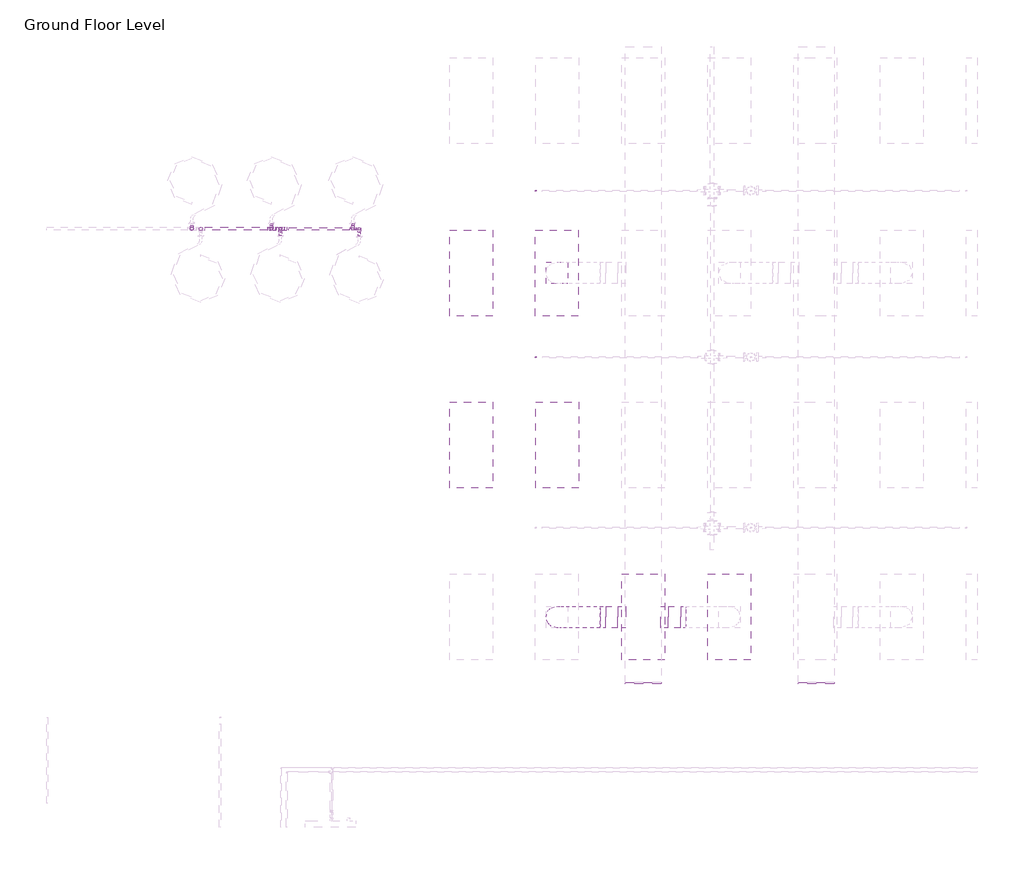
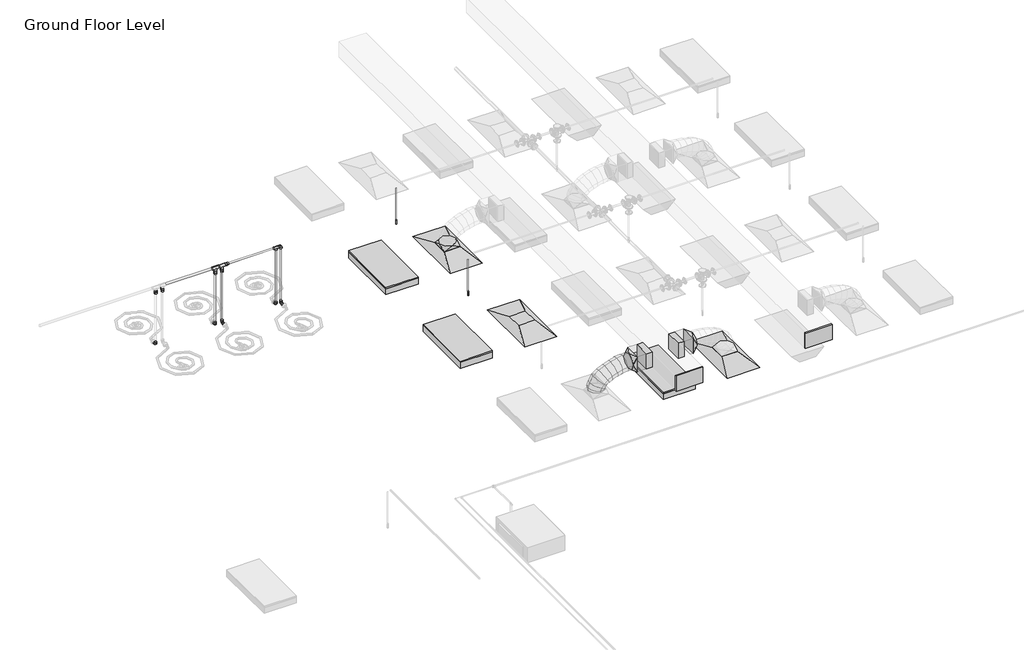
# One storey, part 44 of 74: 14 pipe fittings, 14 pipe segments, 7 duct fittings, 3 air terminals, 3 duct segments, 3 light fixtures, 2 fire suppression terminals.
"""IFC4 building model written with IfcOpenShell, lengths in millimetres."""

from ifc_helpers import new_model, si_unit, point, frame, frame_2d, origin, place, context, project, spatial, polyline, circle_curve, ellipse_curve, trimmed, segment, composite_curve, outline, extrude, transform, mapped, element, save
from ifc_brep_helpers import plane_surface, cylinder_surface, advanced_brep
from components import m_return_diffuser_1200x600_1200_x_600_face_300_x_300_d1983ef6, m_rectangular_endcap_standard_72d4d00d, m_rectangular_takeoff_standard_cb0ccb98, m_rectangular_takeoff_standard_2be5eba1, m_rectangular_to_round_transition_angle_45_degree_641efff0, m_sprinkler_dry_pendent_hosted_15_mm_dry_pendent_9bda8e11, m_troffer_light_parabolic_rectangular1_0600x1200mm_4_lamp_86473d4a, standard_517a5a8d, standard_72b35c3b, standard_08ff6011, standard_d0d0b892

model = new_model("IFC4")

# Units and contexts
model_context = context("Model", 3, world=origin())
ifc_project = project(units=[si_unit("LENGTHUNIT", "METRE", prefix="MILLI")], contexts=[model_context])

# Site, building, storey
site = spatial("IfcSite", under=ifc_project)
building = spatial("IfcBuilding", under=site)
storey = spatial("IfcBuildingStorey", under=building, Name="Ground Floor Level", Elevation=900.0)

# Air terminals
placement = place(None, origin())
m_return_diffuser_1200x600_1200_x_600_face_300_x_300_shape = m_return_diffuser_1200x600_1200_x_600_face_300_x_300_d1983ef6(model_context)
element("IfcAirTerminal", 1, ObjectType="M_Return Diffuser 1200x600 : 1200 x 600 Face 300 x 300 Connection", at=placement, inside=storey, context=model_context, shape_type="MappedRepresentation", body=[
    mapped(m_return_diffuser_1200x600_1200_x_600_face_300_x_300_shape, transform((-8137.2327605, 4035.2153534, 3650.0), x_axis=(0.0, 1.0, 0.0), y_axis=(-1.0, 0.0, 0.0), z_axis=(0.0, 0.0, 1.0))),
])
element("IfcAirTerminal", 2, ObjectType="M_Supply Diffuser 1200x600 : 1200 x 600 Face 300 x 300 Connection", at=placement, inside=storey, context=model_context, shape_type="MappedRepresentation", body=[
    mapped(m_return_diffuser_1200x600_1200_x_600_face_300_x_300_shape, transform((-8142.6846929, 6435.2153534, 3650.0), x_axis=(0.0, 1.0, 0.0), y_axis=(-1.0, 0.0, 0.0), z_axis=(0.0, 0.0, 1.0))),
])
element("IfcAirTerminal", 3, ObjectType="M_Supply Diffuser 1200x600 : 1200 x 600 Face 300 x 300 Connection", at=placement, inside=storey, context=model_context, shape_type="MappedRepresentation", body=[
    mapped(m_return_diffuser_1200x600_1200_x_600_face_300_x_300_shape, transform((-5737.2327605, 1635.2153534, 3650.0), x_axis=(0.0, 1.0, 0.0), y_axis=(-1.0, 0.0, 0.0), z_axis=(0.0, 0.0, 1.0))),
])

# Duct fittings
m_rectangular_endcap_standard_shape = m_rectangular_endcap_standard_72d4d00d(model_context)
element("IfcDuctFitting", 4, ObjectType="M_Rectangular Endcap : Standard", at=placement, inside=storey, context=model_context, shape_type="MappedRepresentation", body=[
    mapped(m_rectangular_endcap_standard_shape, transform((-4528.6910789, 725.2312455, 4150.0403557), x_axis=(0.0, -0.999999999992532, 3.864729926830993e-06), y_axis=(1.0, 0.0, 0.0), z_axis=(0.0, 3.864729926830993e-06, 0.999999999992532))),
])
element("IfcDuctFitting", 5, ObjectType="M_Rectangular Endcap : Standard", at=placement, inside=storey, context=model_context, shape_type="MappedRepresentation", body=[
    mapped(m_rectangular_endcap_standard_shape, transform((-6939.6910789, 725.2153534, 4150.0), x_axis=(0.0, -1.0, 0.0), y_axis=(1.0, 0.0, 0.0), z_axis=(0.0, 0.0, 1.0))),
])
m_rectangular_takeoff_standard_shape = m_rectangular_takeoff_standard_cb0ccb98(model_context)
element("IfcDuctFitting", 6, ObjectType="M_Rectangular Takeoff : Standard", at=placement, inside=storey, context=model_context, shape_type="MappedRepresentation", body=[
    mapped(m_rectangular_takeoff_standard_shape, transform((-6689.6910789, 1635.2153534, 4150.0), x_axis=(1.0, 0.0, 0.0), y_axis=(0.0, -1.0, 0.0), z_axis=(0.0, 0.0, -1.0))),
])
m_rectangular_takeoff_standard_2_shape = m_rectangular_takeoff_standard_2be5eba1(model_context)
element("IfcDuctFitting", 7, ObjectType="M_Rectangular Takeoff : Standard", at=placement, inside=storey, context=model_context, shape_type="MappedRepresentation", body=[
    mapped(m_rectangular_takeoff_standard_2_shape, transform((-7189.6910789, 1635.2153534, 4150.0), x_axis=(-1.0, 0.0, 0.0), y_axis=(0.0, 1.0, 0.0), z_axis=(0.0, 0.0, -1.0))),
])
m_rectangular_to_round_transition_angle_45_degree_shape = m_rectangular_to_round_transition_angle_45_degree_641efff0(model_context)
element("IfcDuctFitting", 8, ObjectType="M_Rectangular to Round Transition - Angle : 45 Degree", at=placement, inside=storey, context=model_context, shape_type="MappedRepresentation", body=[
    mapped(m_rectangular_to_round_transition_angle_45_degree_shape, transform((-8142.6846929, 6435.2153534, 3751.6), x_axis=(0.0, 0.0, 1.0), y_axis=(-1.0, 0.0, 0.0), z_axis=(0.0, -1.0, 0.0))),
])
element("IfcDuctFitting", 9, ObjectType="M_Rectangular to Round Transition - Angle : 45 Degree", at=placement, inside=storey, context=model_context, shape_type="MappedRepresentation", body=[
    mapped(m_rectangular_to_round_transition_angle_45_degree_shape, transform((-7461.2487616, 1635.2153534, 4150.0), x_axis=(-1.0, 0.0, 0.0), y_axis=(0.0, -1.0, 0.0), z_axis=(0.0, 0.0, 1.0))),
])
element("IfcDuctFitting", 10, ObjectType="M_Rectangular to Round Transition - Angle : 45 Degree", at=placement, inside=storey, context=model_context, shape_type="MappedRepresentation", body=[
    mapped(m_rectangular_to_round_transition_angle_45_degree_shape, transform((-6418.6686918, 1635.2153534, 4150.0), x_axis=(1.0, 0.0, 0.0), y_axis=(0.0, 1.0, 0.0), z_axis=(0.0, 0.0, 1.0))),
])

# Duct segments
element("IfcDuctSegment", 11, ObjectType="Flex - Round", at=placement, inside=storey, context=model_context, shape_type="AdvancedBrep", body=[
    advanced_brep(
    [(-7992.6846929, 1635.2153534, 3826.6), (-8142.6846929, 1485.2153534, 3826.6), (-8292.6846929, 1635.2153534, 3826.6), (-8142.6846929, 1785.2153534, 3826.6), (-7992.6846929, 1635.2153534, 3832.4838104), (-8142.6846929, 1485.2153534, 3857.3049615), (-8292.6846929, 1635.2153534, 3882.1261126), (-8142.6846929, 1785.2153534, 3857.3049615), (-7990.555208, 1635.2153534, 3838.7421096), (-8126.0232883, 1485.2153534, 3906.2708192), (-8261.4913687, 1635.2153534, 3973.7995287), (-8126.0232883, 1785.2153534, 3906.2708192), (-7968.5331802, 1635.2153534, 3871.1472855), (-8080.1452707, 1485.2153534, 3973.7798261), (-8191.7573612, 1635.2153534, 4076.4123668), (-8080.1452707, 1785.2153534, 3973.7798261), (-7928.5904556, 1635.2153534, 3903.4915826), (-8011.2099341, 1485.2153534, 4029.6013814), (-8093.8294126, 1635.2153534, 4155.7111802), (-8011.2099341, 1785.2153534, 4029.6013814), (-7865.6682729, 1635.2153534, 3936.1928758), (-7925.3765727, 1485.2153534, 4074.2098454), (-7985.0848725, 1635.2153534, 4212.226815), (-7925.3765727, 1785.2153534, 4074.2098454), (-7786.815881, 1635.2153534, 3963.8479616), (-7828.8044806, 1485.2153534, 4108.0795788), (-7870.7930803, 1635.2153534, 4252.311196), (-7828.8044806, 1785.2153534, 4108.0795788), (-7700.2438983, 1635.2153534, 3984.0509494), (-7727.652952, 1485.2153534, 4131.684942), (-7755.0620057, 1635.2153534, 4279.3189347), (-7727.652952, 1785.2153534, 4131.684942), (-7613.759715, 1635.2153534, 3996.0504424), (-7628.081281, 1485.2153534, 4145.5002956), (-7642.4028469, 1635.2153534, 4294.9501488), (-7628.081281, 1785.2153534, 4145.5002956), (-7539.5984134, 1635.2153534, 4000.0), (-7543.5898089, 1485.2153534, 4150.0), (-7547.5812043, 1635.2153534, 4300.0), (-7543.5898089, 1785.2153534, 4150.0), (-7536.2487616, 1635.2153534, 4000.0), (-7536.2487616, 1785.2153534, 4150.0), (-7536.2487616, 1635.2153534, 4300.0), (-7536.2487616, 1485.2153534, 4150.0)],
    [
        (0, 1, circle_curve(frame((-8142.6846929, 1635.2153534, 3826.6), z_axis=(0.0, 0.0, -1.0), x_axis=(1.0, 0.0, 0.0)), 150.0)),
        (1, 2, circle_curve(frame((-8142.6846929, 1635.2153534, 3826.6), z_axis=(0.0, 0.0, -1.0), x_axis=(1.0, 0.0, 0.0)), 150.0)),
        (2, 3, circle_curve(frame((-8142.6846929, 1635.2153534, 3826.6), z_axis=(0.0, 0.0, -1.0), x_axis=(1.0, 0.0, 0.0)), 150.0)),
        (3, 0, circle_curve(frame((-8142.6846929, 1635.2153534, 3826.6), z_axis=(0.0, 0.0, -1.0), x_axis=(1.0, 0.0, 0.0)), 150.0)),
        (0, 4),
        (4, 5, ellipse_curve(frame((-8142.6846929, 1635.2153534, 3857.3049615), z_axis=(-0.1632543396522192, 0.0, -0.9865840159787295), x_axis=(0.9865840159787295, 0.0, -0.16325433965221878)), 152.039763, 150.0)),
        (5, 1),
        (5, 6, ellipse_curve(frame((-8142.6846929, 1635.2153534, 3857.3049615), z_axis=(-0.1632543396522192, 0.0, -0.9865840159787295), x_axis=(0.9865840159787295, 0.0, -0.16325433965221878)), 152.039763, 150.0)),
        (6, 2),
        (6, 7, ellipse_curve(frame((-8142.6846929, 1635.2153534, 3857.3049615), z_axis=(-0.1632543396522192, 0.0, -0.9865840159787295), x_axis=(0.9865840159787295, 0.0, -0.16325433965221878)), 152.039763, 150.0)),
        (7, 3),
        (7, 4, ellipse_curve(frame((-8142.6846929, 1635.2153534, 3857.3049615), z_axis=(-0.1632543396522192, 0.0, -0.9865840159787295), x_axis=(0.9865840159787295, 0.0, -0.16325433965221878)), 152.039763, 150.0)),
        (4, 8),
        (8, 9, ellipse_curve(frame((-8126.0232883, 1635.2153534, 3906.2708192), z_axis=(-0.44612805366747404, 0.0, -0.8949691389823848), x_axis=(0.8949691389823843, 0.0, -0.44612805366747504)), 151.366203, 150.0)),
        (9, 5),
        (9, 10, ellipse_curve(frame((-8126.0232883, 1635.2153534, 3906.2708192), z_axis=(-0.44612805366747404, 0.0, -0.8949691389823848), x_axis=(0.8949691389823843, 0.0, -0.44612805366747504)), 151.366203, 150.0)),
        (10, 6),
        (10, 11, ellipse_curve(frame((-8126.0232883, 1635.2153534, 3906.2708192), z_axis=(-0.44612805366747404, 0.0, -0.8949691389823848), x_axis=(0.8949691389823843, 0.0, -0.44612805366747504)), 151.366203, 150.0)),
        (11, 7),
        (11, 8, ellipse_curve(frame((-8126.0232883, 1635.2153534, 3906.2708192), z_axis=(-0.44612805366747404, 0.0, -0.8949691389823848), x_axis=(0.8949691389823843, 0.0, -0.44612805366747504)), 151.366203, 150.0)),
        (8, 12),
        (12, 13, ellipse_curve(frame((-8080.1452707, 1635.2153534, 3973.7798261), z_axis=(-0.6768758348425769, 0.0, -0.7360972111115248), x_axis=(0.7360972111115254, 0.0, -0.6768758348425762)), 151.6268352, 150.0)),
        (13, 9),
        (13, 14, ellipse_curve(frame((-8080.1452707, 1635.2153534, 3973.7798261), z_axis=(-0.6768758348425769, 0.0, -0.7360972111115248), x_axis=(0.7360972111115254, 0.0, -0.6768758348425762)), 151.6268352, 150.0)),
        (14, 10),
        (14, 15, ellipse_curve(frame((-8080.1452707, 1635.2153534, 3973.7798261), z_axis=(-0.6768758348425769, 0.0, -0.7360972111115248), x_axis=(0.7360972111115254, 0.0, -0.6768758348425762)), 151.6268352, 150.0)),
        (15, 11),
        (15, 12, ellipse_curve(frame((-8080.1452707, 1635.2153534, 3973.7798261), z_axis=(-0.6768758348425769, 0.0, -0.7360972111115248), x_axis=(0.7360972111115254, 0.0, -0.6768758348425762)), 151.6268352, 150.0)),
        (12, 16),
        (16, 17, ellipse_curve(frame((-8011.2099341, 1635.2153534, 4029.6013814), z_axis=(-0.8364738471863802, 0.0, -0.5480068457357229), x_axis=(0.5480068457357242, 0.0, -0.8364738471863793)), 150.7635884, 150.0)),
        (17, 13),
        (17, 18, ellipse_curve(frame((-8011.2099341, 1635.2153534, 4029.6013814), z_axis=(-0.8364738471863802, 0.0, -0.5480068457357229), x_axis=(0.5480068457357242, 0.0, -0.8364738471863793)), 150.7635884, 150.0)),
        (18, 14),
        (18, 19, ellipse_curve(frame((-8011.2099341, 1635.2153534, 4029.6013814), z_axis=(-0.8364738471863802, 0.0, -0.5480068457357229), x_axis=(0.5480068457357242, 0.0, -0.8364738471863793)), 150.7635884, 150.0)),
        (19, 15),
        (19, 16, ellipse_curve(frame((-8011.2099341, 1635.2153534, 4029.6013814), z_axis=(-0.8364738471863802, 0.0, -0.5480068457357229), x_axis=(0.5480068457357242, 0.0, -0.8364738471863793)), 150.7635884, 150.0)),
        (16, 20),
        (20, 21, ellipse_curve(frame((-7925.3765727, 1635.2153534, 4074.2098454), z_axis=(-0.9177957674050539, 0.0, -0.39705280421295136), x_axis=(0.39705280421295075, 0.0, -0.9177957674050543)), 150.3787384, 150.0)),
        (21, 17),
        (21, 22, ellipse_curve(frame((-7925.3765727, 1635.2153534, 4074.2098454), z_axis=(-0.9177957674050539, 0.0, -0.39705280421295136), x_axis=(0.39705280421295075, 0.0, -0.9177957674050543)), 150.3787384, 150.0)),
        (22, 18),
        (22, 23, ellipse_curve(frame((-7925.3765727, 1635.2153534, 4074.2098454), z_axis=(-0.9177957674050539, 0.0, -0.39705280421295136), x_axis=(0.39705280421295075, 0.0, -0.9177957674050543)), 150.3787384, 150.0)),
        (23, 19),
        (23, 20, ellipse_curve(frame((-7925.3765727, 1635.2153534, 4074.2098454), z_axis=(-0.9177957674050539, 0.0, -0.39705280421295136), x_axis=(0.39705280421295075, 0.0, -0.9177957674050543)), 150.3787384, 150.0)),
        (20, 24),
        (24, 25, ellipse_curve(frame((-7828.8044806, 1635.2153534, 4108.0795788), z_axis=(-0.9601411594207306, 0.0, -0.2795155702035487), x_axis=(0.27951557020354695, 0.0, -0.9601411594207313)), 150.2191795, 150.0)),
        (25, 21),
        (25, 26, ellipse_curve(frame((-7828.8044806, 1635.2153534, 4108.0795788), z_axis=(-0.9601411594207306, 0.0, -0.2795155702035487), x_axis=(0.27951557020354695, 0.0, -0.9601411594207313)), 150.2191795, 150.0)),
        (26, 22),
        (26, 27, ellipse_curve(frame((-7828.8044806, 1635.2153534, 4108.0795788), z_axis=(-0.9601411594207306, 0.0, -0.2795155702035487), x_axis=(0.27951557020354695, 0.0, -0.9601411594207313)), 150.2191795, 150.0)),
        (27, 23),
        (27, 24, ellipse_curve(frame((-7828.8044806, 1635.2153534, 4108.0795788), z_axis=(-0.9601411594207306, 0.0, -0.2795155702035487), x_axis=(0.27951557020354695, 0.0, -0.9601411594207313)), 150.2191795, 150.0)),
        (24, 28),
        (28, 29, ellipse_curve(frame((-7727.652952, 1635.2153534, 4131.684942), z_axis=(-0.9831991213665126, 0.0, -0.1825362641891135), x_axis=(0.1825362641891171, 0.0, -0.9831991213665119)), 150.1567581, 150.0)),
        (29, 25),
        (29, 30, ellipse_curve(frame((-7727.652952, 1635.2153534, 4131.684942), z_axis=(-0.9831991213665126, 0.0, -0.1825362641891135), x_axis=(0.1825362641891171, 0.0, -0.9831991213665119)), 150.1567581, 150.0)),
        (30, 26),
        (30, 31, ellipse_curve(frame((-7727.652952, 1635.2153534, 4131.684942), z_axis=(-0.9831991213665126, 0.0, -0.1825362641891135), x_axis=(0.1825362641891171, 0.0, -0.9831991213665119)), 150.1567581, 150.0)),
        (31, 27),
        (31, 28, ellipse_curve(frame((-7727.652952, 1635.2153534, 4131.684942), z_axis=(-0.9831991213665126, 0.0, -0.1825362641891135), x_axis=(0.1825362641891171, 0.0, -0.9831991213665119)), 150.1567581, 150.0)),
        (28, 32),
        (32, 33, ellipse_curve(frame((-7628.081281, 1635.2153534, 4145.5002956), z_axis=(-0.9954398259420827, 0.0, -0.09539157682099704), x_axis=(0.09539157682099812, 0.0, -0.9954398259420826)), 150.1344926, 150.0)),
        (33, 29),
        (33, 34, ellipse_curve(frame((-7628.081281, 1635.2153534, 4145.5002956), z_axis=(-0.9954398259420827, 0.0, -0.09539157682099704), x_axis=(0.09539157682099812, 0.0, -0.9954398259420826)), 150.1344926, 150.0)),
        (34, 30),
        (34, 35, ellipse_curve(frame((-7628.081281, 1635.2153534, 4145.5002956), z_axis=(-0.9954398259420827, 0.0, -0.09539157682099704), x_axis=(0.09539157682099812, 0.0, -0.9954398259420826)), 150.1344926, 150.0)),
        (35, 31),
        (35, 32, ellipse_curve(frame((-7628.081281, 1635.2153534, 4145.5002956), z_axis=(-0.9954398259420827, 0.0, -0.09539157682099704), x_axis=(0.09539157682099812, 0.0, -0.9954398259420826)), 150.1344926, 150.0)),
        (32, 36),
        (36, 37, ellipse_curve(frame((-7543.5898089, 1635.2153534, 4150.0), z_axis=(-0.9996461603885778, 0.0, -0.026599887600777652), x_axis=(0.026599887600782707, 0.0, -0.9996461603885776)), 150.0530947, 150.0)),
        (37, 33),
        (37, 38, ellipse_curve(frame((-7543.5898089, 1635.2153534, 4150.0), z_axis=(-0.9996461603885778, 0.0, -0.026599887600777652), x_axis=(0.026599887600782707, 0.0, -0.9996461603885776)), 150.0530947, 150.0)),
        (38, 34),
        (38, 39, ellipse_curve(frame((-7543.5898089, 1635.2153534, 4150.0), z_axis=(-0.9996461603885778, 0.0, -0.026599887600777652), x_axis=(0.026599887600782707, 0.0, -0.9996461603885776)), 150.0530947, 150.0)),
        (39, 35),
        (39, 36, ellipse_curve(frame((-7543.5898089, 1635.2153534, 4150.0), z_axis=(-0.9996461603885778, 0.0, -0.026599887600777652), x_axis=(0.026599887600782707, 0.0, -0.9996461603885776)), 150.0530947, 150.0)),
        (40, 41, circle_curve(frame((-7536.2487616, 1635.2153534, 4150.0), z_axis=(1.0, 0.0, 0.0), x_axis=(0.0, 0.0, -1.0)), 150.0)),
        (41, 42, circle_curve(frame((-7536.2487616, 1635.2153534, 4150.0), z_axis=(1.0, 0.0, 0.0), x_axis=(0.0, 0.0, -1.0)), 150.0)),
        (42, 43, circle_curve(frame((-7536.2487616, 1635.2153534, 4150.0), z_axis=(1.0, 0.0, 0.0), x_axis=(0.0, 0.0, -1.0)), 150.0)),
        (43, 40, circle_curve(frame((-7536.2487616, 1635.2153534, 4150.0), z_axis=(1.0, 0.0, 0.0), x_axis=(0.0, 0.0, -1.0)), 150.0)),
        (36, 40),
        (43, 37),
        (42, 38),
        (41, 39),
    ],
    [
        plane_surface(frame((-8142.6846929, 1485.2153534, 3826.6), z_axis=(0.0, 0.0, -1.0), x_axis=(1.0, 0.0, 0.0))),
        cylinder_surface(frame((-8142.6846929, 1635.2153534, 3826.6), z_axis=(0.0, 0.0, -1.0), x_axis=(1.0, 0.0, 0.0)), 150.0),
        cylinder_surface(frame((-8142.6846929, 1635.2153534, 3857.3049615), z_axis=(-0.32212824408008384, 0.0, -0.9466960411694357), x_axis=(0.9466960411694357, 0.0, -0.32212824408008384)), 150.0),
        cylinder_surface(frame((-8126.0232883, 1635.2153534, 3906.2708192), z_axis=(-0.5620745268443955, 0.0, -0.8270865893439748), x_axis=(0.8270865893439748, 0.0, -0.5620745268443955)), 150.0),
        cylinder_surface(frame((-8080.1452707, 1635.2153534, 3973.7798261), z_axis=(-0.777152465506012, 0.0, -0.6293123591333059), x_axis=(0.6293123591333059, 0.0, -0.777152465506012)), 150.0),
        cylinder_surface(frame((-8011.2099341, 1635.2153534, 4029.6013814), z_axis=(-0.887322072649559, 0.0, -0.4611502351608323), x_axis=(0.4611502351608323, 0.0, -0.887322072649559)), 150.0),
        cylinder_surface(frame((-7925.3765727, 1635.2153534, 4074.2098454), z_axis=(-0.9436464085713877, 0.0, -0.3309553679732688), x_axis=(0.3309553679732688, 0.0, -0.9436464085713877)), 150.0),
        cylinder_surface(frame((-7828.8044806, 1635.2153534, 4108.0795788), z_axis=(-0.9738340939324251, 0.0, -0.22726010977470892), x_axis=(0.22726010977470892, 0.0, -0.9738340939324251)), 150.0),
        cylinder_surface(frame((-7727.652952, 1635.2153534, 4131.684942), z_axis=(-0.9905113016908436, 0.0, -0.137431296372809), x_axis=(0.137431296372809, 0.0, -0.9905113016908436)), 150.0),
        cylinder_surface(frame((-7628.081281, 1635.2153534, 4145.5002956), z_axis=(-0.998584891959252, 0.0, -0.05318095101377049), x_axis=(0.05318095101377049, 0.0, -0.998584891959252)), 150.0),
        plane_surface(frame((-7536.2487616, 1635.2153534, 4000.0), z_axis=(1.0, 0.0, 0.0), x_axis=(0.0, 1.0, 0.0))),
        cylinder_surface(frame((-7543.5898089, 1635.2153534, 4150.0), z_axis=(-1.0, 0.0, 0.0), x_axis=(0.0, 0.0, -1.0)), 150.0),
    ],
    [
        (0, [[1, 2, 3, 4]]),
        (1, [[-1, 5, 6, 7]]),
        (1, [[-2, -7, 8, 9]]),
        (1, [[-3, -9, 10, 11]]),
        (1, [[-4, -11, 12, -5]]),
        (2, [[-6, 13, 14, 15]]),
        (2, [[-8, -15, 16, 17]]),
        (2, [[-10, -17, 18, 19]]),
        (2, [[-12, -19, 20, -13]]),
        (3, [[-14, 21, 22, 23]]),
        (3, [[-16, -23, 24, 25]]),
        (3, [[-18, -25, 26, 27]]),
        (3, [[-20, -27, 28, -21]]),
        (4, [[-22, 29, 30, 31]]),
        (4, [[-24, -31, 32, 33]]),
        (4, [[-26, -33, 34, 35]]),
        (4, [[-28, -35, 36, -29]]),
        (5, [[-30, 37, 38, 39]]),
        (5, [[-32, -39, 40, 41]]),
        (5, [[-34, -41, 42, 43]]),
        (5, [[-36, -43, 44, -37]]),
        (6, [[-38, 45, 46, 47]]),
        (6, [[-40, -47, 48, 49]]),
        (6, [[-42, -49, 50, 51]]),
        (6, [[-44, -51, 52, -45]]),
        (7, [[-46, 53, 54, 55]]),
        (7, [[-48, -55, 56, 57]]),
        (7, [[-50, -57, 58, 59]]),
        (7, [[-52, -59, 60, -53]]),
        (8, [[-54, 61, 62, 63]]),
        (8, [[-56, -63, 64, 65]]),
        (8, [[-58, -65, 66, 67]]),
        (8, [[-60, -67, 68, -61]]),
        (9, [[-62, 69, 70, 71]]),
        (9, [[-64, -71, 72, 73]]),
        (9, [[-66, -73, 74, 75]]),
        (9, [[-68, -75, 76, -69]]),
        (10, [[77, 78, 79, 80]]),
        (11, [[-70, 81, -80, 82]]),
        (11, [[-72, -82, -79, 83]]),
        (11, [[-74, -83, -78, 84]]),
        (11, [[-76, -84, -77, -81]]),
    ],
),
])
element("IfcDuctSegment", 12, ObjectType="Radius Elbows / Taps", at=placement, inside=storey, context=model_context, shape_type="SweptSolid", body=[
    extrude(outline(polyline([(-7291.2910789, 1785.2153534), (-7291.2910789, 1485.2153534), (-7461.2487616, 1485.2153534), (-7461.2487616, 1785.2153534), (-7291.2910789, 1785.2153534)])), frame((0.0, 0.0, 4000.0), z_axis=(0.0, 0.0, 1.0), x_axis=(1.0, 0.0, 0.0)), (0.0, 0.0, 1.0), 300.0),
])
element("IfcDuctSegment", 13, ObjectType="Radius Elbows / Taps", at=placement, inside=storey, context=model_context, shape_type="SweptSolid", body=[
    extrude(outline(polyline([(-6588.0910789, 1485.2153534), (-6588.0910789, 1785.2153534), (-6418.6686918, 1785.2153534), (-6418.6686918, 1485.2153534), (-6588.0910789, 1485.2153534)])), frame((0.0, 0.0, 4000.0), z_axis=(0.0, 0.0, 1.0), x_axis=(1.0, 0.0, 0.0)), (0.0, 0.0, 1.0), 300.0),
])

# Fire suppression terminals
m_sprinkler_dry_pendent_hosted_15_mm_dry_pendent_shape = m_sprinkler_dry_pendent_hosted_15_mm_dry_pendent_9bda8e11(model_context)
element("IfcFireSuppressionTerminal", 14, ObjectType="M_Sprinkler - Dry - Pendent - Hosted : 15 mm Dry Pendent", at=placement, inside=storey, context=model_context, shape_type="MappedRepresentation", body=[
    mapped(m_sprinkler_dry_pendent_hosted_15_mm_dry_pendent_shape, transform((-8437.2327605, 7582.7040742, 3650.0), x_axis=(1.0, 0.0, 0.0), y_axis=(0.0, -1.0, 0.0), z_axis=(0.0, 0.0, -1.0))),
])
element("IfcFireSuppressionTerminal", 15, ObjectType="M_Sprinkler - Dry - Pendent - Hosted : 15 mm Dry Pendent", at=placement, inside=storey, context=model_context, shape_type="MappedRepresentation", body=[
    mapped(m_sprinkler_dry_pendent_hosted_15_mm_dry_pendent_shape, transform((-8437.2327605, 5261.0372753, 3650.0), x_axis=(1.0, 0.0, 0.0), y_axis=(0.0, -1.0, 0.0), z_axis=(0.0, 0.0, -1.0))),
])

# Light fixtures
m_troffer_light_parabolic_rectangular1_0600x1200mm_4_lamp_shape = m_troffer_light_parabolic_rectangular1_0600x1200mm_4_lamp_86473d4a(model_context)
element("IfcLightFixture", 16, ObjectType="M_Troffer Light - Parabolic Rectangular1 : 0600x1200mm(4 Lamp) - 277V 2", at=placement, inside=storey, context=model_context, shape_type="MappedRepresentation", body=[
    mapped(m_troffer_light_parabolic_rectangular1_0600x1200mm_4_lamp_shape, transform((-9396.6986926, 6453.918855, 3650.0), x_axis=(0.0, 1.0, 0.0), y_axis=(-1.0, 0.0, 0.0), z_axis=(0.0, 0.0, 1.0))),
])
element("IfcLightFixture", 17, ObjectType="M_Troffer Light - Parabolic Rectangular1 : 0600x1200mm(4 Lamp) - 277V 2", at=placement, inside=storey, context=model_context, shape_type="MappedRepresentation", body=[
    mapped(m_troffer_light_parabolic_rectangular1_0600x1200mm_4_lamp_shape, transform((-9396.6986926, 4053.918855, 3650.0), x_axis=(0.0, 1.0, 0.0), y_axis=(-1.0, 0.0, 0.0), z_axis=(0.0, 0.0, 1.0))),
])
element("IfcLightFixture", 18, ObjectType="M_Troffer Light - Parabolic Rectangular1 : 0600x1200mm(4 Lamp) - 277V 2", at=placement, inside=storey, context=model_context, shape_type="MappedRepresentation", body=[
    mapped(m_troffer_light_parabolic_rectangular1_0600x1200mm_4_lamp_shape, transform((-6996.6986926, 1653.918855, 3650.0), x_axis=(0.0, 1.0, 0.0), y_axis=(-1.0, 0.0, 0.0), z_axis=(0.0, 0.0, 1.0))),
])

# Pipe fittings
standard_shape = standard_517a5a8d(model_context)
element("IfcPipeFitting", 19, ObjectType="M_Elbow - CPVC - Sch 40 : Standard", at=placement, inside=storey, context=model_context, shape_type="MappedRepresentation", body=[
    mapped(standard_shape, transform((-13232.2327605, 7049.9865561, 3200.0), x_axis=(0.0, 0.0, -1.0), y_axis=(0.0, 1.0, 0.0), z_axis=(1.0, 0.0, 0.0))),
])
element("IfcPipeFitting", 20, ObjectType="M_Elbow - CPVC - Sch 40 : Standard", at=placement, inside=storey, context=model_context, shape_type="MappedRepresentation", body=[
    mapped(standard_shape, transform((-12122.2327605, 7049.9865561, 3200.0), x_axis=(0.0, 0.0, -1.0), y_axis=(0.0, 1.0, 0.0), z_axis=(1.0, 0.0, 0.0))),
])
element("IfcPipeFitting", 21, ObjectType="M_Elbow - CPVC - Sch 40 : Standard", at=placement, inside=storey, context=model_context, shape_type="MappedRepresentation", body=[
    mapped(standard_shape, transform((-11997.2327605, 7049.9865561, 3200.0), x_axis=(0.0, 0.0, -1.0), y_axis=(0.0, -1.0, 0.0), z_axis=(-1.0, 0.0, 0.0))),
])
element("IfcPipeFitting", 22, ObjectType="M_Elbow - CPVC - Sch 40 : Standard", at=placement, inside=storey, context=model_context, shape_type="MappedRepresentation", body=[
    mapped(standard_shape, transform((-10987.2327605, 7049.9865561, 3200.0), x_axis=(0.0, 0.0, -1.0), y_axis=(0.0, 1.0, 0.0), z_axis=(1.0, 0.0, 0.0))),
])
element("IfcPipeFitting", 23, ObjectType="M_Elbow - CPVC - Sch 40 : Standard", at=placement, inside=storey, context=model_context, shape_type="MappedRepresentation", body=[
    mapped(standard_shape, transform((-10897.2327605, 7049.9865561, 3200.0), x_axis=(0.0, 0.0, -1.0), y_axis=(0.0, -1.0, 0.0), z_axis=(-1.0, 0.0, 0.0))),
])
element("IfcPipeFitting", 24, ObjectType="M_Elbow - CPVC - Sch 40 : Standard", at=placement, inside=storey, context=model_context, shape_type="MappedRepresentation", body=[
    mapped(standard_shape, transform((-10897.2327605, 7049.9865561, 4315.0), x_axis=(1.0, 0.0, 0.0), y_axis=(0.0, 0.0, -1.0), z_axis=(0.0, 1.0, 0.0))),
])
standard_2_shape = standard_72b35c3b(model_context)
element("IfcPipeFitting", 25, ObjectType="M_Tee - CPVC - Sch 40 : Standard", at=placement, inside=storey, context=model_context, shape_type="MappedRepresentation", body=[
    mapped(standard_2_shape, transform((-10987.2327605, 7049.9865561, 4315.0), x_axis=(-1.0, 0.0, 0.0), y_axis=(0.0, 0.0, 1.0), z_axis=(0.0, 1.0, 0.0))),
])
standard_3_shape = standard_08ff6011(model_context)
element("IfcPipeFitting", 26, ObjectType="M_Tee - CPVC - Sch 40 : Standard", at=placement, inside=storey, context=model_context, shape_type="MappedRepresentation", body=[
    mapped(standard_3_shape, transform((-12122.2327605, 7049.9865561, 4315.0), x_axis=(-1.0, 0.0, 0.0), y_axis=(0.0, 0.0, 1.0), z_axis=(0.0, 1.0, 0.0))),
])
element("IfcPipeFitting", 27, ObjectType="M_Tee - CPVC - Sch 40 : Standard", at=placement, inside=storey, context=model_context, shape_type="MappedRepresentation", body=[
    mapped(standard_3_shape, transform((-11997.2327605, 7049.9865561, 4315.0), x_axis=(-1.0, 0.0, 0.0), y_axis=(0.0, 0.0, 1.0), z_axis=(0.0, 1.0, 0.0))),
])
standard_4_shape = standard_d0d0b892(model_context)
element("IfcPipeFitting", 28, ObjectType="M_Coupling Reducing - CPVC - Sch 40 : Standard", at=placement, inside=storey, context=model_context, shape_type="MappedRepresentation", body=[
    mapped(standard_4_shape, transform((-13107.2327605, 7049.9865561, 4261.025), x_axis=(0.0, 0.0, -1.0), y_axis=(1.0, 0.0, 0.0), z_axis=(0.0, -1.0, 0.0))),
])
element("IfcPipeFitting", 29, ObjectType="M_Coupling Reducing - CPVC - Sch 40 : Standard", at=placement, inside=storey, context=model_context, shape_type="MappedRepresentation", body=[
    mapped(standard_4_shape, transform((-13232.2327605, 7049.9865561, 4261.025), x_axis=(0.0, 0.0, -1.0), y_axis=(-1.0, 0.0, 0.0), z_axis=(0.0, 1.0, 0.0))),
])
element("IfcPipeFitting", 30, ObjectType="M_Coupling Reducing - CPVC - Sch 40 : Standard", at=placement, inside=storey, context=model_context, shape_type="MappedRepresentation", body=[
    mapped(standard_4_shape, transform((-12122.2327605, 7049.9865561, 4261.025), x_axis=(0.0, 0.0, -1.0), y_axis=(-1.0, 0.0, 0.0), z_axis=(0.0, 1.0, 0.0))),
])
element("IfcPipeFitting", 31, ObjectType="M_Coupling Reducing - CPVC - Sch 40 : Standard", at=placement, inside=storey, context=model_context, shape_type="MappedRepresentation", body=[
    mapped(standard_4_shape, transform((-11997.2327605, 7049.9865561, 4261.025), x_axis=(0.0, 0.0, -1.0), y_axis=(1.0, 0.0, 0.0), z_axis=(0.0, -1.0, 0.0))),
])
element("IfcPipeFitting", 32, ObjectType="M_Coupling Reducing - CPVC - Sch 40 : Standard", at=placement, inside=storey, context=model_context, shape_type="MappedRepresentation", body=[
    mapped(standard_4_shape, transform((-11943.2577605, 7049.9865561, 4315.0), x_axis=(1.0, 0.0, 0.0), y_axis=(0.0, 1.0, 0.0), z_axis=(0.0, 0.0, 1.0))),
])

# Pipe segments
element("IfcPipeSegment", 33, ObjectType="CPVC", at=placement, inside=storey, context=model_context, shape_type="SweptSolid", body=[
    extrude(outline(composite_curve([segment(trimmed(circle_curve(frame_2d((3200.0, -12122.2327605)), 16.7005), [point((3200.0, -12105.5322605))], [point((3216.7005, -12122.2327605))], False, "CARTESIAN"), True, "CONTINUOUS"), segment(trimmed(circle_curve(frame_2d((3200.0, -12122.2327605)), 16.7005), [point((3216.7005, -12122.2327605))], [point((3200.0, -12138.9332605))], False, "CARTESIAN"), True, "CONTINUOUS"), segment(trimmed(circle_curve(frame_2d((3200.0, -12122.2327605)), 16.7005), [point((3200.0, -12138.9332605))], [point((3183.2995, -12122.2327605))], False, "CARTESIAN"), True, "CONTINUOUS"), segment(trimmed(circle_curve(frame_2d((3200.0, -12122.2327605)), 16.7005), [point((3183.2995, -12122.2327605))], [point((3200.0, -12105.5322605))], False, "CARTESIAN"), True, "CONTINUOUS")], self_intersect=False)), frame((0.0, 7093.2491061, 0.0), z_axis=(0.0, 1.0, 0.0), x_axis=(0.0, 0.0, 1.0)), (0.0, 0.0, 1.0), 30.346801),
])
element("IfcPipeSegment", 34, ObjectType="CPVC", at=placement, inside=storey, context=model_context, shape_type="SweptSolid", body=[
    extrude(outline(composite_curve([segment(trimmed(circle_curve(frame_2d((-12122.2327605, 7049.9865561)), 16.7005), [point((-12105.5322605, 7049.9865561))], [point((-12122.2327605, 7033.2860561))], False, "CARTESIAN"), True, "CONTINUOUS"), segment(trimmed(circle_curve(frame_2d((-12122.2327605, 7049.9865561)), 16.7005), [point((-12122.2327605, 7033.2860561))], [point((-12138.9332605, 7049.9865561))], False, "CARTESIAN"), True, "CONTINUOUS"), segment(trimmed(circle_curve(frame_2d((-12122.2327605, 7049.9865561)), 16.7005), [point((-12138.9332605, 7049.9865561))], [point((-12122.2327605, 7066.6870561))], False, "CARTESIAN"), True, "CONTINUOUS"), segment(trimmed(circle_curve(frame_2d((-12122.2327605, 7049.9865561)), 16.7005), [point((-12122.2327605, 7066.6870561))], [point((-12105.5322605, 7049.9865561))], False, "CARTESIAN"), True, "CONTINUOUS")], self_intersect=False)), frame((0.0, 0.0, 3243.26255), z_axis=(0.0, 0.0, 1.0), x_axis=(1.0, 0.0, 0.0)), (0.0, 0.0, 1.0), 951.643575),
])
element("IfcPipeSegment", 35, ObjectType="CPVC", at=placement, inside=storey, context=model_context, shape_type="SweptSolid", body=[
    extrude(outline(composite_curve([segment(trimmed(circle_curve(frame_2d((7049.9865561, 4315.0)), 21.082), [point((7028.9045561, 4315.0))], [point((7049.9865561, 4336.082))], False, "CARTESIAN"), True, "CONTINUOUS"), segment(trimmed(circle_curve(frame_2d((7049.9865561, 4315.0)), 21.082), [point((7049.9865561, 4336.082))], [point((7071.0685561, 4315.0))], False, "CARTESIAN"), True, "CONTINUOUS"), segment(trimmed(circle_curve(frame_2d((7049.9865561, 4315.0)), 21.082), [point((7071.0685561, 4315.0))], [point((7049.9865561, 4293.918))], False, "CARTESIAN"), True, "CONTINUOUS"), segment(trimmed(circle_curve(frame_2d((7049.9865561, 4315.0)), 21.082), [point((7049.9865561, 4293.918))], [point((7028.9045561, 4315.0))], False, "CARTESIAN"), True, "CONTINUOUS")], self_intersect=False)), frame((-13053.2577605, 0.0, 0.0), z_axis=(1.0, 0.0, 0.0), x_axis=(0.0, 1.0, 0.0)), (0.0, 0.0, 1.0), 877.05),
])
element("IfcPipeSegment", 36, ObjectType="CPVC", at=placement, inside=storey, context=model_context, shape_type="SweptSolid", body=[
    extrude(outline(composite_curve([segment(trimmed(circle_curve(frame_2d((3200.0, -11997.2327605)), 16.7005), [point((3200.0, -12013.9332605))], [point((3183.2995, -11997.2327605))], False, "CARTESIAN"), True, "CONTINUOUS"), segment(trimmed(circle_curve(frame_2d((3200.0, -11997.2327605)), 16.7005), [point((3183.2995, -11997.2327605))], [point((3200.0, -11980.5322605))], False, "CARTESIAN"), True, "CONTINUOUS"), segment(trimmed(circle_curve(frame_2d((3200.0, -11997.2327605)), 16.7005), [point((3200.0, -11980.5322605))], [point((3216.7005, -11997.2327605))], False, "CARTESIAN"), True, "CONTINUOUS"), segment(trimmed(circle_curve(frame_2d((3200.0, -11997.2327605)), 16.7005), [point((3216.7005, -11997.2327605))], [point((3200.0, -12013.9332605))], False, "CARTESIAN"), True, "CONTINUOUS")], self_intersect=False)), frame((0.0, 6956.8347997, 0.0), z_axis=(0.0, 1.0, 0.0), x_axis=(0.0, 0.0, 1.0)), (0.0, 0.0, 1.0), 49.8892064),
])
element("IfcPipeSegment", 37, ObjectType="CPVC", at=placement, inside=storey, context=model_context, shape_type="SweptSolid", body=[
    extrude(outline(composite_curve([segment(trimmed(circle_curve(frame_2d((-11997.2327605, 7049.9865561)), 16.7005), [point((-11980.5322605, 7049.9865561))], [point((-11997.2327605, 7033.2860561))], False, "CARTESIAN"), True, "CONTINUOUS"), segment(trimmed(circle_curve(frame_2d((-11997.2327605, 7049.9865561)), 16.7005), [point((-11997.2327605, 7033.2860561))], [point((-12013.9332605, 7049.9865561))], False, "CARTESIAN"), True, "CONTINUOUS"), segment(trimmed(circle_curve(frame_2d((-11997.2327605, 7049.9865561)), 16.7005), [point((-12013.9332605, 7049.9865561))], [point((-11997.2327605, 7066.6870561))], False, "CARTESIAN"), True, "CONTINUOUS"), segment(trimmed(circle_curve(frame_2d((-11997.2327605, 7049.9865561)), 16.7005), [point((-11997.2327605, 7066.6870561))], [point((-11980.5322605, 7049.9865561))], False, "CARTESIAN"), True, "CONTINUOUS")], self_intersect=False)), frame((0.0, 0.0, 3243.26255), z_axis=(0.0, 0.0, 1.0), x_axis=(1.0, 0.0, 0.0)), (0.0, 0.0, 1.0), 951.643575),
])
element("IfcPipeSegment", 38, ObjectType="CPVC", at=placement, inside=storey, context=model_context, shape_type="SweptSolid", body=[
    extrude(outline(composite_curve([segment(trimmed(circle_curve(frame_2d((7049.9865561, 4315.0)), 21.082), [point((7028.9045561, 4315.0))], [point((7049.9865561, 4336.082))], False, "CARTESIAN"), True, "CONTINUOUS"), segment(trimmed(circle_curve(frame_2d((7049.9865561, 4315.0)), 21.082), [point((7049.9865561, 4336.082))], [point((7071.0685561, 4315.0))], False, "CARTESIAN"), True, "CONTINUOUS"), segment(trimmed(circle_curve(frame_2d((7049.9865561, 4315.0)), 21.082), [point((7071.0685561, 4315.0))], [point((7049.9865561, 4293.918))], False, "CARTESIAN"), True, "CONTINUOUS"), segment(trimmed(circle_curve(frame_2d((7049.9865561, 4315.0)), 21.082), [point((7049.9865561, 4293.918))], [point((7028.9045561, 4315.0))], False, "CARTESIAN"), True, "CONTINUOUS")], self_intersect=False)), frame((-12068.2577605, 0.0, 0.0), z_axis=(1.0, 0.0, 0.0), x_axis=(0.0, 1.0, 0.0)), (0.0, 0.0, 1.0), 17.05),
])
element("IfcPipeSegment", 39, ObjectType="CPVC", at=placement, inside=storey, context=model_context, shape_type="SweptSolid", body=[
    extrude(outline(composite_curve([segment(trimmed(circle_curve(frame_2d((3200.0, -10987.2327605)), 16.7005), [point((3200.0, -10970.5322605))], [point((3216.7005, -10987.2327605))], False, "CARTESIAN"), True, "CONTINUOUS"), segment(trimmed(circle_curve(frame_2d((3200.0, -10987.2327605)), 16.7005), [point((3216.7005, -10987.2327605))], [point((3200.0, -11003.9332605))], False, "CARTESIAN"), True, "CONTINUOUS"), segment(trimmed(circle_curve(frame_2d((3200.0, -10987.2327605)), 16.7005), [point((3200.0, -11003.9332605))], [point((3183.2995, -10987.2327605))], False, "CARTESIAN"), True, "CONTINUOUS"), segment(trimmed(circle_curve(frame_2d((3200.0, -10987.2327605)), 16.7005), [point((3183.2995, -10987.2327605))], [point((3200.0, -10970.5322605))], False, "CARTESIAN"), True, "CONTINUOUS")], self_intersect=False)), frame((0.0, 7093.2491061, 0.0), z_axis=(0.0, 1.0, 0.0), x_axis=(0.0, 0.0, 1.0)), (0.0, 0.0, 1.0), 30.346801),
])
element("IfcPipeSegment", 40, ObjectType="CPVC", at=placement, inside=storey, context=model_context, shape_type="SweptSolid", body=[
    extrude(outline(composite_curve([segment(trimmed(circle_curve(frame_2d((-10987.2327605, 7049.9865561)), 16.7005), [point((-10970.5322605, 7049.9865561))], [point((-10987.2327605, 7033.2860561))], False, "CARTESIAN"), True, "CONTINUOUS"), segment(trimmed(circle_curve(frame_2d((-10987.2327605, 7049.9865561)), 16.7005), [point((-10987.2327605, 7033.2860561))], [point((-11003.9332605, 7049.9865561))], False, "CARTESIAN"), True, "CONTINUOUS"), segment(trimmed(circle_curve(frame_2d((-10987.2327605, 7049.9865561)), 16.7005), [point((-11003.9332605, 7049.9865561))], [point((-10987.2327605, 7066.6870561))], False, "CARTESIAN"), True, "CONTINUOUS"), segment(trimmed(circle_curve(frame_2d((-10987.2327605, 7049.9865561)), 16.7005), [point((-10987.2327605, 7066.6870561))], [point((-10970.5322605, 7049.9865561))], False, "CARTESIAN"), True, "CONTINUOUS")], self_intersect=False)), frame((0.0, 0.0, 3243.26255), z_axis=(0.0, 0.0, 1.0), x_axis=(1.0, 0.0, 0.0)), (0.0, 0.0, 1.0), 1032.03725),
])
element("IfcPipeSegment", 41, ObjectType="CPVC", at=placement, inside=storey, context=model_context, shape_type="SweptSolid", body=[
    extrude(outline(composite_curve([segment(trimmed(circle_curve(frame_2d((7049.9865561, 4315.0)), 16.7005), [point((7033.2860561, 4315.0))], [point((7049.9865561, 4331.7005))], False, "CARTESIAN"), True, "CONTINUOUS"), segment(trimmed(circle_curve(frame_2d((7049.9865561, 4315.0)), 16.7005), [point((7049.9865561, 4331.7005))], [point((7066.6870561, 4315.0))], False, "CARTESIAN"), True, "CONTINUOUS"), segment(trimmed(circle_curve(frame_2d((7049.9865561, 4315.0)), 16.7005), [point((7066.6870561, 4315.0))], [point((7049.9865561, 4298.2995))], False, "CARTESIAN"), True, "CONTINUOUS"), segment(trimmed(circle_curve(frame_2d((7049.9865561, 4315.0)), 16.7005), [point((7049.9865561, 4298.2995))], [point((7033.2860561, 4315.0))], False, "CARTESIAN"), True, "CONTINUOUS")], self_intersect=False)), frame((-11877.1388855, 0.0, 0.0), z_axis=(1.0, 0.0, 0.0), x_axis=(0.0, 1.0, 0.0)), (0.0, 0.0, 1.0), 850.205925),
])
element("IfcPipeSegment", 42, ObjectType="CPVC", at=placement, inside=storey, context=model_context, shape_type="SweptSolid", body=[
    extrude(outline(composite_curve([segment(trimmed(circle_curve(frame_2d((3200.0, -10897.2327605)), 16.7005), [point((3200.0, -10913.9332605))], [point((3183.2995, -10897.2327605))], False, "CARTESIAN"), True, "CONTINUOUS"), segment(trimmed(circle_curve(frame_2d((3200.0, -10897.2327605)), 16.7005), [point((3183.2995, -10897.2327605))], [point((3200.0, -10880.5322605))], False, "CARTESIAN"), True, "CONTINUOUS"), segment(trimmed(circle_curve(frame_2d((3200.0, -10897.2327605)), 16.7005), [point((3200.0, -10880.5322605))], [point((3216.7005, -10897.2327605))], False, "CARTESIAN"), True, "CONTINUOUS"), segment(trimmed(circle_curve(frame_2d((3200.0, -10897.2327605)), 16.7005), [point((3216.7005, -10897.2327605))], [point((3200.0, -10913.9332605))], False, "CARTESIAN"), True, "CONTINUOUS")], self_intersect=False)), frame((0.0, 6946.8347997, 0.0), z_axis=(0.0, 1.0, 0.0), x_axis=(0.0, 0.0, 1.0)), (0.0, 0.0, 1.0), 59.8892065),
])
element("IfcPipeSegment", 43, ObjectType="CPVC", at=placement, inside=storey, context=model_context, shape_type="SweptSolid", body=[
    extrude(outline(composite_curve([segment(trimmed(circle_curve(frame_2d((-10897.2327605, 7049.9865561)), 16.7005), [point((-10880.5322605, 7049.9865561))], [point((-10897.2327605, 7033.2860561))], False, "CARTESIAN"), True, "CONTINUOUS"), segment(trimmed(circle_curve(frame_2d((-10897.2327605, 7049.9865561)), 16.7005), [point((-10897.2327605, 7033.2860561))], [point((-10913.9332605, 7049.9865561))], False, "CARTESIAN"), True, "CONTINUOUS"), segment(trimmed(circle_curve(frame_2d((-10897.2327605, 7049.9865561)), 16.7005), [point((-10913.9332605, 7049.9865561))], [point((-10897.2327605, 7066.6870561))], False, "CARTESIAN"), True, "CONTINUOUS"), segment(trimmed(circle_curve(frame_2d((-10897.2327605, 7049.9865561)), 16.7005), [point((-10897.2327605, 7066.6870561))], [point((-10880.5322605, 7049.9865561))], False, "CARTESIAN"), True, "CONTINUOUS")], self_intersect=False)), frame((0.0, 0.0, 3243.26255), z_axis=(0.0, 0.0, 1.0), x_axis=(1.0, 0.0, 0.0)), (0.0, 0.0, 1.0), 1028.4749),
])
element("IfcPipeSegment", 44, ObjectType="CPVC", at=placement, inside=storey, context=model_context, shape_type="SweptSolid", body=[
    extrude(outline(composite_curve([segment(trimmed(circle_curve(frame_2d((7049.9865561, 4315.0)), 16.7005), [point((7033.2860561, 4315.0))], [point((7049.9865561, 4331.7005))], False, "CARTESIAN"), True, "CONTINUOUS"), segment(trimmed(circle_curve(frame_2d((7049.9865561, 4315.0)), 16.7005), [point((7049.9865561, 4331.7005))], [point((7066.6870561, 4315.0))], False, "CARTESIAN"), True, "CONTINUOUS"), segment(trimmed(circle_curve(frame_2d((7049.9865561, 4315.0)), 16.7005), [point((7066.6870561, 4315.0))], [point((7049.9865561, 4298.2995))], False, "CARTESIAN"), True, "CONTINUOUS"), segment(trimmed(circle_curve(frame_2d((7049.9865561, 4315.0)), 16.7005), [point((7049.9865561, 4298.2995))], [point((7033.2860561, 4315.0))], False, "CARTESIAN"), True, "CONTINUOUS")], self_intersect=False)), frame((-10947.5325605, 0.0, 0.0), z_axis=(1.0, 0.0, 0.0), x_axis=(0.0, 1.0, 0.0)), (0.0, 0.0, 1.0), 7.03725),
])
element("IfcPipeSegment", 45, ObjectType="Steel flanged", at=placement, inside=storey, context=model_context, shape_type="SweptSolid", body=[
    extrude(outline(composite_curve([segment(trimmed(circle_curve(frame_2d((-8437.2327605, 7582.7040742)), 10.668), [point((-8447.9007605, 7582.7040742))], [point((-8437.2327605, 7593.3720742))], False, "CARTESIAN"), True, "CONTINUOUS"), segment(trimmed(circle_curve(frame_2d((-8437.2327605, 7582.7040742)), 10.668), [point((-8437.2327605, 7593.3720742))], [point((-8426.5647605, 7582.7040742))], False, "CARTESIAN"), True, "CONTINUOUS"), segment(trimmed(circle_curve(frame_2d((-8437.2327605, 7582.7040742)), 10.668), [point((-8426.5647605, 7582.7040742))], [point((-8437.2327605, 7572.0360742))], False, "CARTESIAN"), True, "CONTINUOUS"), segment(trimmed(circle_curve(frame_2d((-8437.2327605, 7582.7040742)), 10.668), [point((-8437.2327605, 7572.0360742))], [point((-8447.9007605, 7582.7040742))], False, "CARTESIAN"), True, "CONTINUOUS")], self_intersect=False)), frame((0.0, 0.0, 3650.0), z_axis=(0.0, 0.0, 1.0), x_axis=(1.0, 0.0, 0.0)), (0.0, 0.0, 1.0), 616.9914062),
])
element("IfcPipeSegment", 46, ObjectType="Steel flanged", at=placement, inside=storey, context=model_context, shape_type="SweptSolid", body=[
    extrude(outline(composite_curve([segment(trimmed(circle_curve(frame_2d((-8437.2327605, 5261.0372753)), 10.668), [point((-8447.9007605, 5261.0372753))], [point((-8437.2327605, 5271.7052753))], False, "CARTESIAN"), True, "CONTINUOUS"), segment(trimmed(circle_curve(frame_2d((-8437.2327605, 5261.0372753)), 10.668), [point((-8437.2327605, 5271.7052753))], [point((-8426.5647605, 5261.0372753))], False, "CARTESIAN"), True, "CONTINUOUS"), segment(trimmed(circle_curve(frame_2d((-8437.2327605, 5261.0372753)), 10.668), [point((-8426.5647605, 5261.0372753))], [point((-8437.2327605, 5250.3692753))], False, "CARTESIAN"), True, "CONTINUOUS"), segment(trimmed(circle_curve(frame_2d((-8437.2327605, 5261.0372753)), 10.668), [point((-8437.2327605, 5250.3692753))], [point((-8447.9007605, 5261.0372753))], False, "CARTESIAN"), True, "CONTINUOUS")], self_intersect=False)), frame((0.0, 0.0, 3650.0), z_axis=(0.0, 0.0, 1.0), x_axis=(1.0, 0.0, 0.0)), (0.0, 0.0, 1.0), 616.9914062),
])

save(model, "model.ifc")
